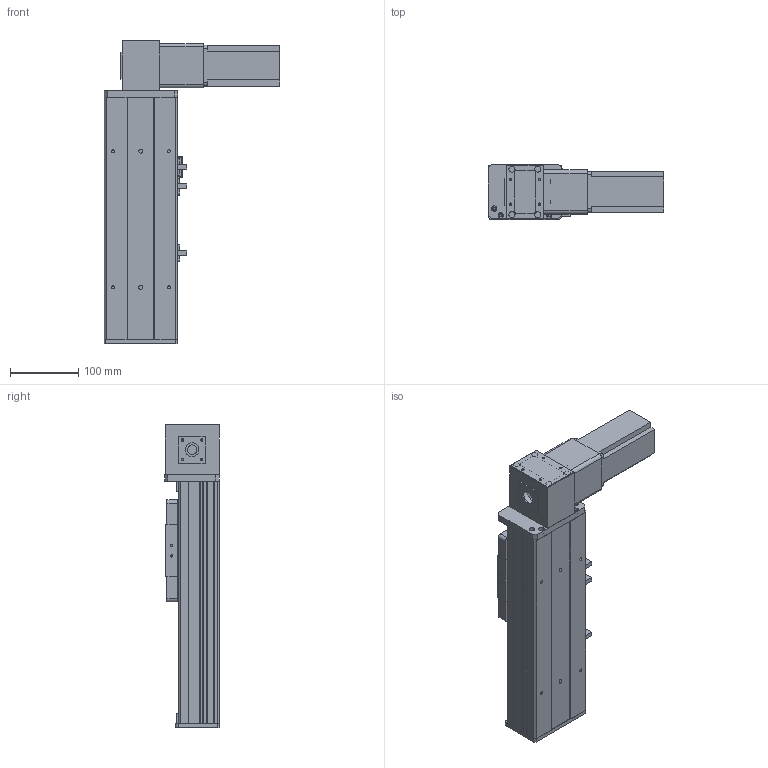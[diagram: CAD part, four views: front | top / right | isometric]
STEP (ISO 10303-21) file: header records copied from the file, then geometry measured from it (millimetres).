
FILE_DESCRIPTION (( 'STEP AP203' ), '1' );
FILE_NAME ('Y10CB-D90-S100-BD-P400W.STEP', '2020-02-17T02:16:17', ( '微软用户' ), ( '微软中国' ), 'SwSTEP 2.0', 'SolidWorks 2017', '' );
FILE_SCHEMA (( 'CONFIG_CONTROL_DESIGN' ));
Length unit declared in the file: millimetre
Products named in the file (16): Y10CB- 掛极耜裔啣-毀---; 0B-源倛裔啣; Y10C---詩湍揤啣; 10CB9-掛极; 10CB-耜裔; Y135C-陔俋离換覜結え-; 0CB-雄赽釱---; Y100-135俋离換覜ん--; 0Cb-俋欶---; Y10B--々湍喘謫眊--666; 0B-埴倛裔啣; Y10B-々湍喘謫眊楊擘啣--; 0B-薊粣ん眊; 10CB-詩湍-; Y10CB-D90-S100-BD-P400W; san松下电机400不带刹车----
Assembly tree (19 placements, depth 2):
  Y10CB-D90-S100-BD-P400W
    0CB-雄赽釱---
    0Cb-俋欶---
    Y10B-々湍喘謫眊楊擘啣--
    san松下电机400不带刹车----
    0B-源倛裔啣
    0B-埴倛裔啣
    10CB-詩湍-
    Y10CB- 掛极耜裔啣-毀---  x2
    Y10C---詩湍揤啣  x2
    10CB9-掛极
    10CB-耜裔
    Y135C-陔俋离換覜結え-
    Y100-135俋离換覜ん--  x3
    Y10B--々湍喘謫眊--666
    0B-薊粣ん眊
Bounding box: 258 x 80.5 x 446 mm (x, y, z)
Volume: 1565927.8 mm3; surface area: 575382.3 mm2
Topology: 19 solids, 19 shells, 840 faces, 2182 edges, 1436 vertices
Faces by surface type: plane 426, cylinder 390, cone 24
Entity records: 25069 total; most frequent: CARTESIAN_POINT 4164, DIRECTION 4117, ORIENTED_EDGE 3834, EDGE_CURVE 1917, AXIS2_PLACEMENT_3D 1479, VERTEX_POINT 1262, VECTOR 1159, LINE 1159
